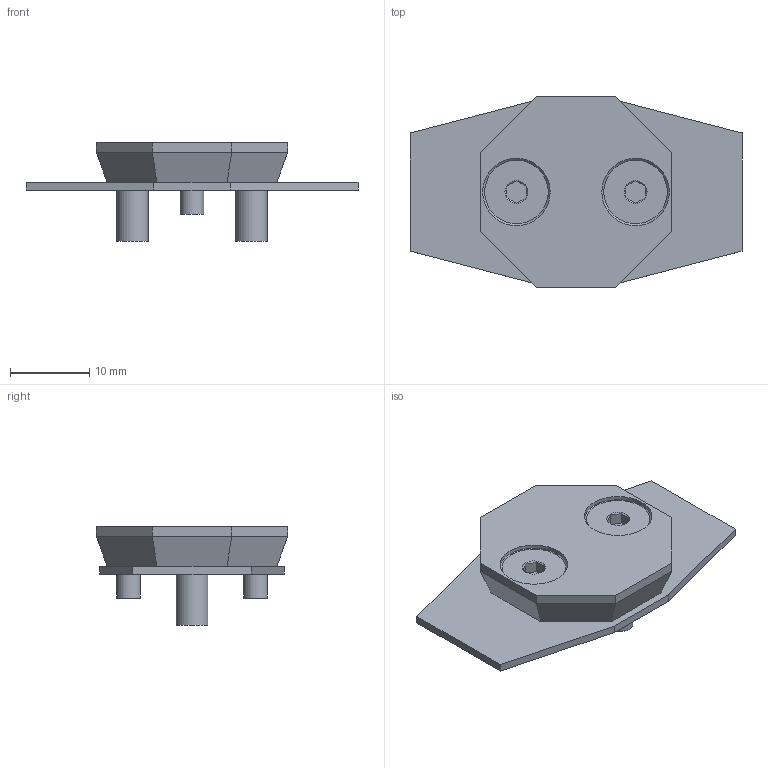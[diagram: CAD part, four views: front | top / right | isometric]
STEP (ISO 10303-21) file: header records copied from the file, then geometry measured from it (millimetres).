
FILE_DESCRIPTION (( 'STEP AP214' ), '1' );
FILE_NAME ('AG-C_WEBSITE.step', '2025-08-11T13:44:13', ( '' ), ( '' ), 'SwSTEP 2.0', 'SolidWorks 2024', '' );
FILE_SCHEMA (( 'AUTOMOTIVE_DESIGN' ));
Length unit declared in the file: millimetre
Products named in the file (5): AS-S_WEBSITE; AG-C_WEBSITE; M3X6.DP_WEBSITE_M3X6.DP; AS-C_WEBSITE_AS-C; M4X12MM.FHCS_WEBSITE_91263A829
Assembly tree (6 placements, depth 2):
  AG-C_WEBSITE
    AS-C_WEBSITE_AS-C
    AS-S_WEBSITE
    M4X12MM.FHCS_WEBSITE_91263A829  x2
    M3X6.DP_WEBSITE_M3X6.DP  x2
Bounding box: 41.8 x 24.09 x 12.45 mm (x, y, z)
Volume: 3139.3 mm3; surface area: 3791.8 mm2
Topology: 6 solids, 6 shells, 84 faces, 170 edges, 100 vertices
Faces by surface type: plane 50, cone 18, cylinder 16
Full cylindrical faces by diameter (mm): 3 x2, 3.023 x2, 3.7 x2, 4 x2, 4.2 x4, 8 x2, 8.5 x2
Entity records: 1776 total; most frequent: CARTESIAN_POINT 310, DIRECTION 284, ORIENTED_EDGE 228, EDGE_CURVE 114, AXIS2_PLACEMENT_3D 104, EDGE_LOOP 94, VERTEX_POINT 78, LINE 76
